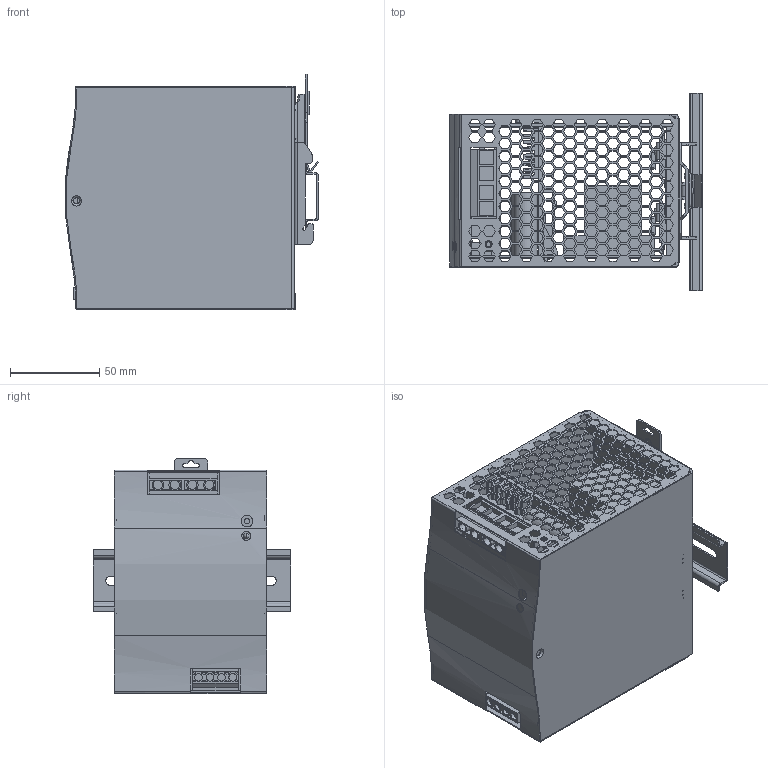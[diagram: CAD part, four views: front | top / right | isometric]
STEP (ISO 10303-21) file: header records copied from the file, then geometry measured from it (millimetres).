
FILE_DESCRIPTION(('Creo Elements/Direct Modeling STEP Export'),'2;1');
FILE_NAME('TDR-480.stp','2020-05-06T16:06:15',(''),(''),'PTC Creo Elements/Direct Modeling STEP processor for AP214 (Solid Model)','PTC Creo Elements/Direct Modeling 19.0E 27-Jun-2016 (C) Parametric Technology GmbH','');
FILE_SCHEMA(('AUTOMOTIVE_DESIGN { 1 0 10303 214 1 1 1 1 }'));
Length unit declared in the file: millimetre
Products named in the file (47): 123.PRT; 1231.PRT; P2.PRT; P3_1_1.PRT; CASEX.PRT; S1.PRT; NEWHS-MYLAR.PRT; MYLR1_1.PRT; MYLR1.PRT; CASE1.PRT; SSSS1.PRT; SSSS.PRT; MHS033.PRT; FGH.PRT; DDD-1514490.PRT; _S___S_O_S_JL.PRT; PCB2.PRT; C.ASM; HS2_1.PRT; MOS15_5X10_1_1_1_1_1_1_2_1_1_1_.PRT; M.ASM; MOS15_5X10_2_1_1_1.PRT; PCB1-1437010.PRT; PCB3.ASM; B.ASM; WWWW.PRT; HS2_1_1.PRT; PIN_1_2.PRT; DDD-1368870.PRT; UU_1.PRT; HS4.ASM; MOS15_5X10_1_1_1_1_1_1_1_1_1_1.PRT; MOS.ASM; MOSTO3P.PRT; VR.PRT; LED.PRT; A2_1.ASM; PCB1_1.PRT; PCB1-1324590.ASM; A.ASM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
Assembly tree (54 placements, depth 6):
  TDR-480.stp
    TDR-480_1.ASM
      DRP14-R4.ASM
        P1_1.PRT
        P3_2_1.PRT
        15_1.PRT
        _X2_63025EA7_X0_.PRT
      A.ASM
        PCB1-1324590.ASM
          PCB1_1.PRT
          A2_1.ASM
            LED.PRT
            VR.PRT  x2
        MOSTO3P.PRT  x2
        MOS.ASM
          MOS15_5X10_1_1_1_1_1_1_1_1_1_1.PRT  x2
        HS4.ASM
          UU_1.PRT
          DDD-1368870.PRT
          PIN_1_2.PRT
        HS2_1_1.PRT
        WWWW.PRT
      B.ASM
        MOS15_5X10_2_1_1_1.PRT  x2
        PCB3.ASM
          PCB1-1437010.PRT
        M.ASM
          MOS15_5X10_1_1_1_1_1_1_2_1_1_1_.PRT
        HS2_1.PRT
      C.ASM
        PCB2.PRT
        _S___S_O_S_JL.PRT
      DDD-1514490.PRT
      FGH.PRT
      MHS033.PRT  x4
      SSSS.PRT
      SSSS1.PRT
      CASE1.PRT
      MYLR1.PRT
      MYLR1_1.PRT
      NEWHS-MYLAR.PRT
      S1.PRT
      CASEX.PRT
      P3_1_1.PRT  x2
      P2.PRT
      1231.PRT
      123.PRT
Bounding box: 141.67 x 110.38 x 131.7 mm (x, y, z)
Volume: 333139.3 mm3; surface area: 383930.2 mm2
Topology: 40 solids, 40 shells, 3867 faces, 10935 edges, 7246 vertices
Faces by surface type: plane 3142, cylinder 586, cone 88, torus 50, bspline 1
Entity records: 120466 total; most frequent: CARTESIAN_POINT 21232, ORIENTED_EDGE 20996, DIRECTION 18453, EDGE_CURVE 10498, VECTOR 9265, LINE 9265, VERTEX_POINT 6960, EDGE_LOOP 4694
